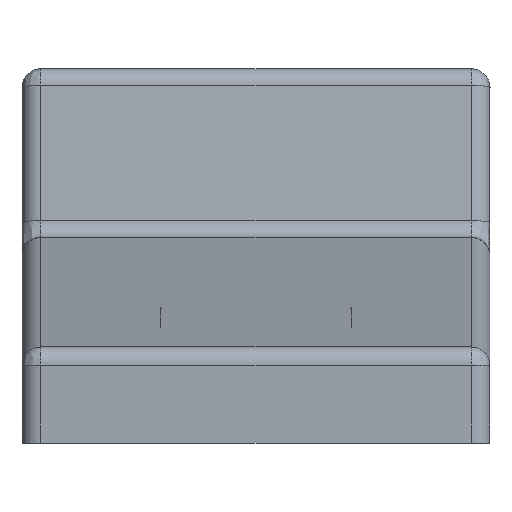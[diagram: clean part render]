
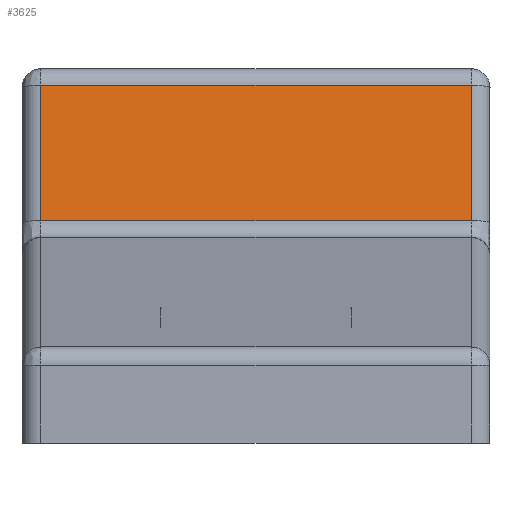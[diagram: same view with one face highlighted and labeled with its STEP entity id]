
A CAD part, front view. The second image highlights one B-rep face of the part: STEP entity #3625.
In plain terms, the highlighted planar face has unit normal (0, 0.994, -0.11).
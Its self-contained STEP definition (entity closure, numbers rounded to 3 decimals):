
#73 = LINE ( 'NONE', #74, #75 ) ;
#74 = CARTESIAN_POINT ( 'NONE',  ( -11.5, 14.5, 15.5 ) ) ;
#75 = VECTOR ( 'NONE', #76, 1000. ) ;
#76 = DIRECTION ( 'NONE',  ( 0., -0.11, -0.994 ) ) ;
#836 = EDGE_CURVE ( 'NONE', #3554, #961, #3102, .T. ) ;
#961 = VERTEX_POINT ( 'NONE', #1335 ) ;
#1314 = CARTESIAN_POINT ( 'NONE',  ( 11.5, 14.901, 19.11 ) ) ;
#1335 = CARTESIAN_POINT ( 'NONE',  ( 11.5, 14.099, 11.89 ) ) ;
#1374 = CARTESIAN_POINT ( 'NONE',  ( -11.5, 14.099, 11.89 ) ) ;
#1380 = LINE ( 'NONE', #1381, #1382 ) ;
#1381 = CARTESIAN_POINT ( 'NONE',  ( 11.5, 14.5, 15.5 ) ) ;
#1382 = VECTOR ( 'NONE', #1383, 1000. ) ;
#1383 = DIRECTION ( 'NONE',  ( 0., -0.11, -0.994 ) ) ;
#1641 = EDGE_CURVE ( 'NONE', #2386, #3542, #3035, .T. ) ;
#2010 = ORIENTED_EDGE ( 'NONE', *, *, #1641, .T. ) ;
#2080 = FACE_OUTER_BOUND ( 'NONE', #3613, .T. ) ;
#2081 = PLANE ( 'NONE',  #2082 ) ;
#2082 = AXIS2_PLACEMENT_3D ( 'NONE', #2083, #2084, #2085 ) ;
#2083 = CARTESIAN_POINT ( 'NONE',  ( -11.96, 14.917, 19.255 ) ) ;
#2084 = DIRECTION ( 'NONE',  ( 0., -0.994, 0.11 ) ) ;
#2085 = DIRECTION ( 'NONE',  ( 0., -0.11, -0.994 ) ) ;
#2386 = VERTEX_POINT ( 'NONE', #3473 ) ;
#2539 = ORIENTED_EDGE ( 'NONE', *, *, #2610, .F. ) ;
#2610 = EDGE_CURVE ( 'NONE', #2386, #3554, #73, .T. ) ;
#3035 = LINE ( 'NONE', #3036, #3037 ) ;
#3036 = CARTESIAN_POINT ( 'NONE',  ( 0., 14.901, 19.11 ) ) ;
#3037 = VECTOR ( 'NONE', #3038, 1000. ) ;
#3038 = DIRECTION ( 'NONE',  ( 1., 0., 0. ) ) ;
#3052 = ORIENTED_EDGE ( 'NONE', *, *, #836, .F. ) ;
#3102 = LINE ( 'NONE', #3103, #3104 ) ;
#3103 = CARTESIAN_POINT ( 'NONE',  ( 0., 14.099, 11.89 ) ) ;
#3104 = VECTOR ( 'NONE', #3105, 1000. ) ;
#3105 = DIRECTION ( 'NONE',  ( 1., 0., 0. ) ) ;
#3473 = CARTESIAN_POINT ( 'NONE',  ( -11.5, 14.901, 19.11 ) ) ;
#3542 = VERTEX_POINT ( 'NONE', #1314 ) ;
#3554 = VERTEX_POINT ( 'NONE', #1374 ) ;
#3555 = EDGE_CURVE ( 'NONE', #3542, #961, #1380, .T. ) ;
#3574 = ORIENTED_EDGE ( 'NONE', *, *, #3555, .T. ) ;
#3613 = EDGE_LOOP ( 'NONE', ( #3574, #3052, #2539, #2010 ) ) ;
#3625 = ADVANCED_FACE ( 'NONE', ( #2080 ), #2081, .F. ) ;
